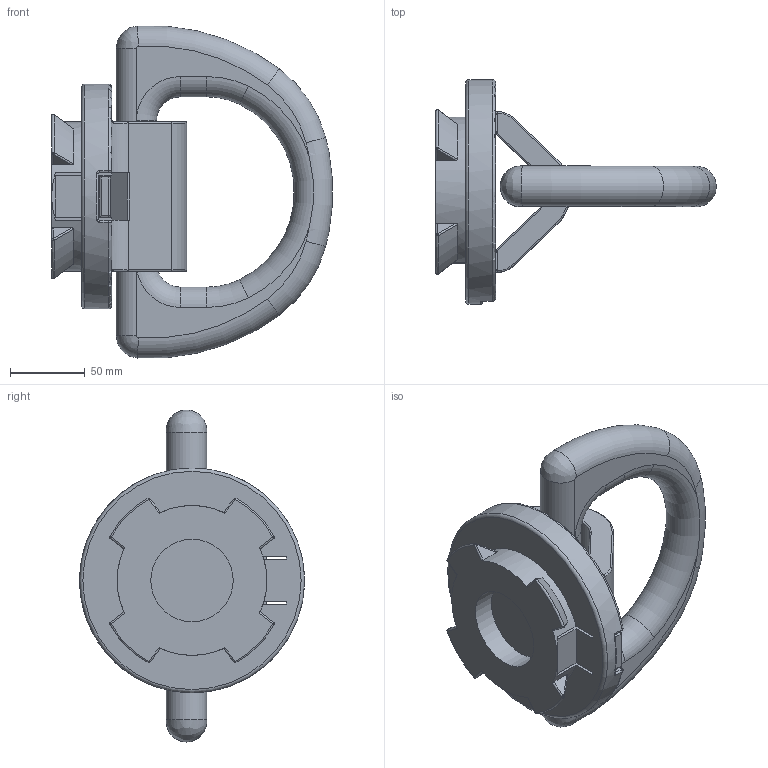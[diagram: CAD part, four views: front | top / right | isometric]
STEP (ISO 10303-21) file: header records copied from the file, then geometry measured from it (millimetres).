
FILE_DESCRIPTION(/* description */ (''),/* implementation_level */ '2;1');
FILE_NAME(/* name */ 'O:\ils2000\Natallia\INVENTOR\AutoCAD stp\NAVACQS\LP-21.stp',/* time_stamp */ '2016-08-12T11:57:26+02:00',/* author */ ('natallia'),/* organization */ (''),/* preprocessor_version */ 'ST-DEVELOPER v16.5',/* originating_system */ 'Autodesk Inventor 2017',/* authorisation */ '');
FILE_SCHEMA (('AUTOMOTIVE_DESIGN { 1 0 10303 214 3 1 1 }'));
Length unit declared in the file: millimetre
Products named in the file (3): LP-21; LP-66 body; Ring LP-14
Assembly tree (2 placements, depth 2):
  LP-21
    LP-66 body
    Ring LP-14
Bounding box: 187.21 x 150 x 221.5 mm (x, y, z)
Volume: 1059288.2 mm3; surface area: 138262 mm2
Topology: 2 solids, 2 shells, 156 faces, 424 edges, 258 vertices
Faces by surface type: plane 47, cylinder 43, bspline 29, torus 25, sphere 8, cone 4
Full cylindrical faces by diameter (mm): 27 x1, 55 x1, 100 x1, 150 x1
Entity records: 5927 total; most frequent: CARTESIAN_POINT 2053, ORIENTED_EDGE 818, DIRECTION 793, EDGE_CURVE 409, AXIS2_PLACEMENT_3D 315, VERTEX_POINT 251, LINE 163, VECTOR 163
